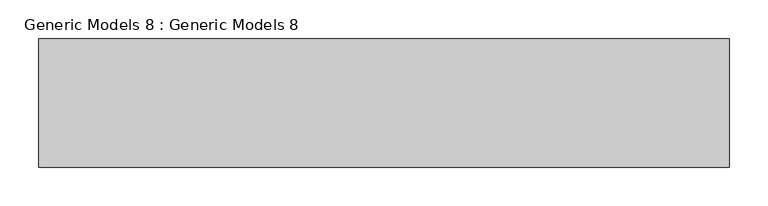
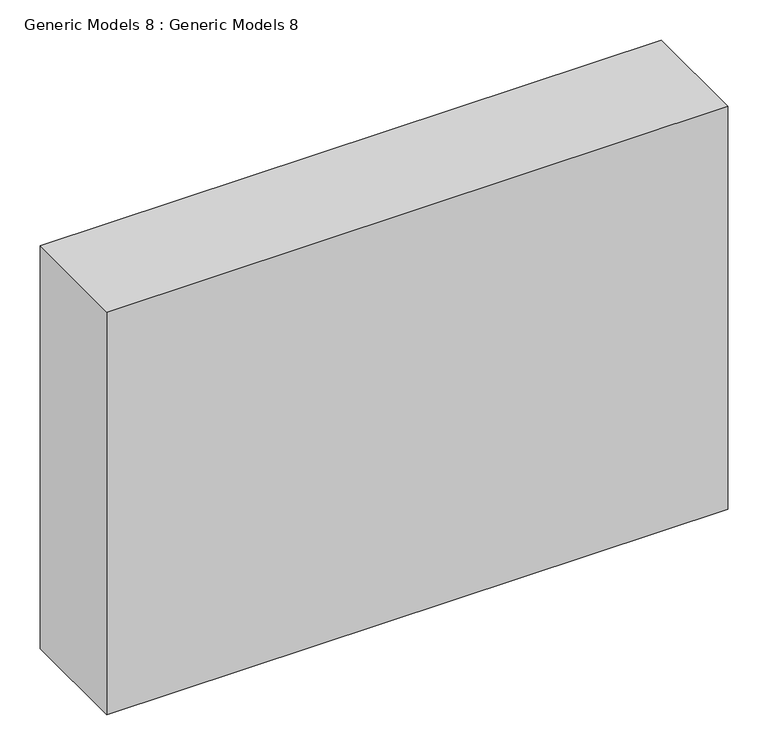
"""IFC4 building model written with IfcOpenShell, lengths in millimetres: proxy geometry, Generic Models 8 : Generic Models 8."""

import ifcopenshell
import ifcopenshell.guid

model = None  # the IFC model being written
_history = None  # IfcOwnerHistory: only IFC2X3 demands one
_inside = {}  # id of a spatial element -> (the spatial element, [elements in it])
_under = {}  # id of a project, library or spatial element -> (it, [spatial elements below it])
_declared = {}  # id of a project -> (the project, [libraries it declares])
_typed = {}  # id of a type object -> (the type object, [elements of that type])
_made_of = {}  # id of a material, layer set ... -> (it, [elements and type objects made of it])


def new_model(schema):
    """Start an empty IFC model of exactly this schema.

    Asked for "IFC4X3", IfcOpenShell would pick the latest addendum, in which some entities
    have other attributes; the version numbers below select the first issue.
    IFC2X3 requires an IfcOwnerHistory on every rooted entity: one is made here for all.
    """
    global model, _history
    if schema == "IFC4X3":
        model = ifcopenshell.file(schema_version=(4, 3, 0, 0))
    else:
        model = ifcopenshell.file(schema=schema)
    _inside.clear()
    _under.clear()
    _declared.clear()
    _typed.clear()
    _made_of.clear()
    _history = None
    if model.schema == "IFC2X3":
        org = make("IfcOrganization", Name="unknown")
        user = make(
            "IfcPersonAndOrganization",
            ThePerson=make("IfcPerson", FamilyName="unknown"),
            TheOrganization=org,
        )
        app = make(
            "IfcApplication",
            ApplicationDeveloper=org,
            Version="unknown",
            ApplicationFullName="unknown",
            ApplicationIdentifier="unknown",
        )
        _history = make(
            "IfcOwnerHistory",
            OwningUser=user,
            OwningApplication=app,
            ChangeAction="ADDED",
            CreationDate=0,
        )
    return model


def make(cls, **values):
    """One entity of the class cls with the attributes given. An attribute that is None is left unset."""
    return model.create_entity(
        cls, **{name: value for name, value in values.items() if value is not None}
    )


def rooted(cls, **values):
    """An entity with a GlobalId (a new one), such as an element, a storey or a relation."""
    return make(cls, GlobalId=ifcopenshell.guid.new(), OwnerHistory=_history, **values)


def si_unit(unit_type, name, prefix=None):
    """IfcSIUnit, for example si_unit("LENGTHUNIT", "METRE", prefix="MILLI")."""
    return make("IfcSIUnit", UnitType=unit_type, Prefix=prefix, Name=name)


def assignment(units):
    """IfcUnitAssignment: the units of a project."""
    return None if units is None else make("IfcUnitAssignment", Units=units)


def point(xyz):
    """IfcCartesianPoint."""
    return None if xyz is None else make("IfcCartesianPoint", Coordinates=xyz)


def direction(xyz):
    """IfcDirection."""
    return None if xyz is None else make("IfcDirection", DirectionRatios=xyz)


def frame(location, z_axis=None, x_axis=None):
    """IfcAxis2Placement3D, a coordinate frame: its origin and axes. An axis left out is left unset."""
    return make(
        "IfcAxis2Placement3D",
        Location=point(location),
        Axis=direction(z_axis),
        RefDirection=direction(x_axis),
    )


def origin():
    """The frame at (0, 0, 0) with its axes left unset."""
    return frame((0.0, 0.0, 0.0))


def place(relative_to, where):
    """IfcLocalPlacement: puts the frame where relative to a parent placement (None: the world)."""
    return make(
        "IfcLocalPlacement", PlacementRelTo=relative_to, RelativePlacement=where
    )


def context(
    kind, dimensions, precision=None, world=None, true_north=None, identifier=None
):
    """IfcGeometricRepresentationContext, for example the 3D "Model" context."""
    return make(
        "IfcGeometricRepresentationContext",
        ContextIdentifier=identifier,
        ContextType=kind,
        CoordinateSpaceDimension=dimensions,
        Precision=precision,
        WorldCoordinateSystem=world,
        TrueNorth=true_north,
    )


def project(units=None, contexts=None):
    """IfcProject with its units and contexts."""
    return rooted(
        "IfcProject",
        Name="project",
        RepresentationContexts=contexts,
        UnitsInContext=assignment(units),
    )


def spatial(cls, under=None, at=None, **own):
    """A site, building, storey or space (cls), placed at a placement, below another one or the project."""
    s = rooted(cls, ObjectPlacement=at, **own)
    if under is not None:
        _under.setdefault(under.id(), (under, []))[1].append(s)
    return s


def polyline(points):
    """IfcPolyline through the points."""
    return make("IfcPolyline", Points=[point(p) for p in points])


def outline(outer, holes=None, kind="AREA"):
    """IfcArbitraryClosedProfileDef: a profile drawn as a closed curve; with holes, ...WithVoids."""
    if holes is None:
        return make("IfcArbitraryClosedProfileDef", ProfileType=kind, OuterCurve=outer)
    return make(
        "IfcArbitraryProfileDefWithVoids",
        ProfileType=kind,
        OuterCurve=outer,
        InnerCurves=holes,
    )


def extrude(swept, where, along, depth):
    """IfcExtrudedAreaSolid: the profile swept, set in the frame where, extruded along a direction by depth."""
    return make(
        "IfcExtrudedAreaSolid",
        SweptArea=swept,
        Position=where,
        ExtrudedDirection=direction(along),
        Depth=depth,
    )


def shape(context_of_items, identifier, shape_type, items):
    """IfcShapeRepresentation: the items that make up one representation, for example the "Body"."""
    return make(
        "IfcShapeRepresentation",
        ContextOfItems=context_of_items,
        RepresentationIdentifier=identifier,
        RepresentationType=shape_type,
        Items=items,
    )


def source(mapping_origin, context_of_items, identifier, shape_type, items):
    """IfcRepresentationMap: a shape defined once, which mapped items show again and again."""
    return make(
        "IfcRepresentationMap",
        MappingOrigin=mapping_origin,
        MappedRepresentation=shape(context_of_items, identifier, shape_type, items),
    )


def transform(
    local_origin,
    x_axis=None,
    y_axis=None,
    z_axis=None,
    scale=None,
    scale2=None,
    scale3=None,
    uniform=True,
):
    """IfcCartesianTransformationOperator3D, or its non-uniform kind. x_axis, y_axis, z_axis: its Axis1, 2, 3."""
    if uniform:
        return make(
            "IfcCartesianTransformationOperator3D",
            Axis1=direction(x_axis),
            Axis2=direction(y_axis),
            LocalOrigin=point(local_origin),
            Scale=scale,
            Axis3=direction(z_axis),
        )
    return make(
        "IfcCartesianTransformationOperator3DnonUniform",
        Axis1=direction(x_axis),
        Axis2=direction(y_axis),
        LocalOrigin=point(local_origin),
        Scale=scale,
        Axis3=direction(z_axis),
        Scale2=scale2,
        Scale3=scale3,
    )


def mapped(mapping_source, mapping_target):
    """IfcMappedItem: shows the shape of a source again, moved by a transform."""
    return make(
        "IfcMappedItem", MappingSource=mapping_source, MappingTarget=mapping_target
    )


def made_of(thing, what):
    """Note that an element or type object is made of a material, layer set ...; save() writes the relation."""
    if what is not None:
        _made_of.setdefault(what.id(), (what, []))[1].append(thing)
    return thing


def element(
    cls,
    number,
    at=None,
    inside=None,
    cuts=None,
    type_object=None,
    material=None,
    context=None,
    identifier="Body",
    shape_type=None,
    held_by="IfcProductDefinitionShape",
    body=None,
    shapes=None,
    **own,
):
    """One element of the class cls, such as IfcWall. Its Tag is "e" and its number.

    at: its placement. inside: the storey or other place that contains it. cuts: it is an
    opening in that element (IfcRelVoidsElement). A single representation is given by context,
    identifier, shape_type and body (its items); several are given by shapes. held_by: the class
    of the entity that holds the representations. save() writes the other relations.
    """
    e = rooted(cls, Tag="e%d" % number, ObjectPlacement=at, **own)
    if body is not None:
        shapes = [shape(context, identifier, shape_type, body)]
    if shapes is not None:
        e.Representation = make(held_by, Representations=shapes)
    if inside is not None:
        _inside.setdefault(inside.id(), (inside, []))[1].append(e)
    if cuts is not None:
        rooted(
            "IfcRelVoidsElement", RelatingBuildingElement=cuts, RelatedOpeningElement=e
        )
    if type_object is not None:
        _typed.setdefault(type_object.id(), (type_object, []))[1].append(e)
    return made_of(e, material)


def aggregate(whole, parts):
    """IfcRelAggregates: a whole, such as a stair, and the parts it consists of."""
    return rooted("IfcRelAggregates", RelatingObject=whole, RelatedObjects=parts)


def save(model, path):
    """Write the relations noted so far, then the file.

    IfcRelAggregates (storeys below a building ...), IfcRelContainedInSpatialStructure (elements
    in a storey), IfcRelDefinesByType, IfcRelAssociatesMaterial and IfcRelDeclares: one each for
    every whole, place, type object, material and project.
    """
    for whole, parts in _under.values():
        aggregate(whole, parts)
    for where, things in _inside.values():
        rooted(
            "IfcRelContainedInSpatialStructure",
            RelatedElements=things,
            RelatingStructure=where,
        )
    for kind, things in _typed.values():
        rooted("IfcRelDefinesByType", RelatedObjects=things, RelatingType=kind)
    for what, things in _made_of.values():
        rooted("IfcRelAssociatesMaterial", RelatedObjects=things, RelatingMaterial=what)
    for by, libraries in _declared.values():
        rooted("IfcRelDeclares", RelatingContext=by, RelatedDefinitions=libraries)
    model.write(path)


def generic_models_8_generic_models_8_85dfdc42(model_context):
    return source(origin(), model_context, "Body", "SweptSolid", [
        extrude(outline(polyline([(-1498.6, 11264.9), (-609.6, 11264.9), (-609.6, 11099.8), (-1498.6, 11099.8), (-1498.6, 11264.9)])), frame((0.0, 0.0, 3348.0), z_axis=(0.0, 0.0, 1.0), x_axis=(1.0, 0.0, 0.0)), (0.0, 0.0, 1.0), 609.6),
    ])


if __name__ == "__main__":
    model = new_model("IFC4")
    model_context = context("Model", 3, world=origin())
    ifc_project = project(units=[si_unit("LENGTHUNIT", "METRE", prefix="MILLI")], contexts=[model_context])
    site = spatial("IfcSite", under=ifc_project)
    building = spatial("IfcBuilding", under=site)
    placement = place(None, origin())
    generic_models_8_generic_models_8_shape = generic_models_8_generic_models_8_85dfdc42(model_context)
    element("IfcBuildingElementProxy", 1, Name="Generic Models 8 : Generic Models 8", ObjectType="Generic Models 8 : Generic Models 8", at=placement, inside=building, context=model_context, shape_type="MappedRepresentation", body=[
        mapped(generic_models_8_generic_models_8_shape, transform((0.0, 0.0, 0.0), x_axis=(1.0, 0.0, 0.0), y_axis=(0.0, 1.0, 0.0), z_axis=(0.0, 0.0, 1.0))),
    ])
    save(model, "model.ifc")
